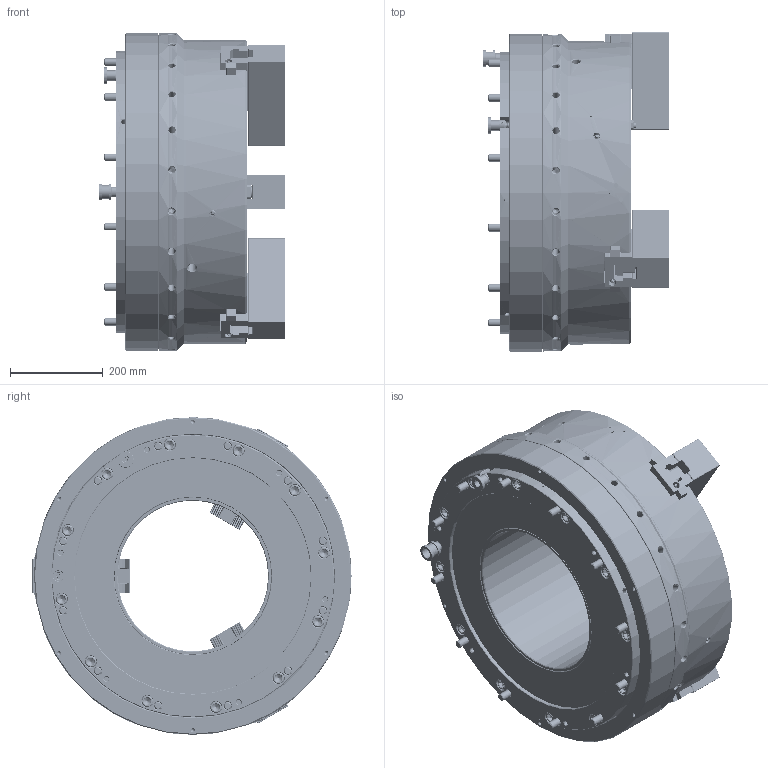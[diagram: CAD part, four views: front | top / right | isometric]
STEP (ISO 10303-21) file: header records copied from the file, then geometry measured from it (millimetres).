
FILE_DESCRIPTION (( 'STEP AP214' ), '1' );
FILE_NAME ('UPR650A325_UC.STEP', '2025-12-26T01:17:38', ( '' ), ( '' ), 'SwSTEP 2.0', 'SolidWorks 2022', '' );
FILE_SCHEMA (( 'AUTOMOTIVE_DESIGN' ));
Length unit declared in the file: millimetre
Products named in the file (5): 0030124060; 61P446153; UPR650A325_UC; UPR650A325_本体; 61P858712
Assembly tree (16 placements, depth 2):
  UPR650A325_UC
    61P858712  x3
    61P446153  x6
    0030124060  x6
    UPR650A325_本体
Bounding box: 401.71 x 688.52 x 685 mm (x, y, z)
Volume: 75827149.3 mm3; surface area: 3384823.1 mm2
Topology: 17 solids, 36 shells, 11378 faces, 31631 edges, 20674 vertices
Faces by surface type: plane 6100, cylinder 3082, bspline 1045, cone 989, torus 150, sphere 12
Entity records: 333918 total; most frequent: CARTESIAN_POINT 113373, ORIENTED_EDGE 50690, DIRECTION 38263, EDGE_CURVE 25345, LINE 16663, VECTOR 16663, VERTEX_POINT 16621, AXIS2_PLACEMENT_3D 10800
